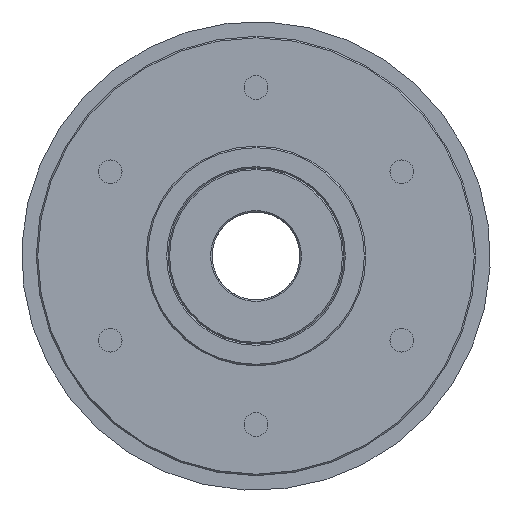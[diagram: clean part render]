
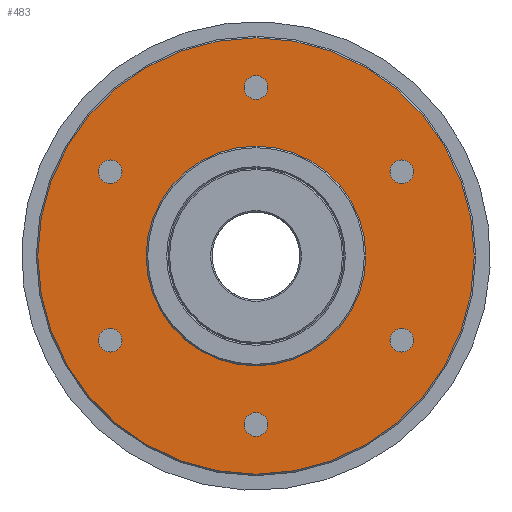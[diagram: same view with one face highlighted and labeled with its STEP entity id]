
A CAD part, left-side view. The second image highlights one B-rep face of the part: STEP entity #483.
In plain terms, the highlighted planar face has unit normal (-1, 0, 0).
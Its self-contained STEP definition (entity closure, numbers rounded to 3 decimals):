
#483 = ADVANCED_FACE( '', ( #961, #962, #963, #964, #965, #966, #967, #968 ), #969, .T. );
#961 = FACE_BOUND( '', #1565, .T. );
#962 = FACE_BOUND( '', #1566, .T. );
#963 = FACE_BOUND( '', #1567, .T. );
#964 = FACE_BOUND( '', #1568, .T. );
#965 = FACE_BOUND( '', #1569, .T. );
#966 = FACE_BOUND( '', #1570, .T. );
#967 = FACE_OUTER_BOUND( '', #1571, .T. );
#968 = FACE_BOUND( '', #1572, .T. );
#969 = PLANE( '', #1573 );
#1565 = EDGE_LOOP( '', ( #2258 ) );
#1566 = EDGE_LOOP( '', ( #2259 ) );
#1567 = EDGE_LOOP( '', ( #2260 ) );
#1568 = EDGE_LOOP( '', ( #2261 ) );
#1569 = EDGE_LOOP( '', ( #2262 ) );
#1570 = EDGE_LOOP( '', ( #2263 ) );
#1571 = EDGE_LOOP( '', ( #2264 ) );
#1572 = EDGE_LOOP( '', ( #2265 ) );
#1573 = AXIS2_PLACEMENT_3D( '', #2266, #2267, #2268 );
#2258 = ORIENTED_EDGE( '', *, *, #3077, .T. );
#2259 = ORIENTED_EDGE( '', *, *, #3078, .T. );
#2260 = ORIENTED_EDGE( '', *, *, #2928, .T. );
#2261 = ORIENTED_EDGE( '', *, *, #3079, .T. );
#2262 = ORIENTED_EDGE( '', *, *, #3037, .T. );
#2263 = ORIENTED_EDGE( '', *, *, #3080, .T. );
#2264 = ORIENTED_EDGE( '', *, *, #3081, .T. );
#2265 = ORIENTED_EDGE( '', *, *, #3082, .F. );
#2266 = CARTESIAN_POINT( '', ( 6.3, 0., 15. ) );
#2267 = DIRECTION( '', ( -1., 0., 0. ) );
#2268 = DIRECTION( '', ( 0., 0., 1. ) );
#2928 = EDGE_CURVE( '', #3277, #3277, #3278, .T. );
#3037 = EDGE_CURVE( '', #3460, #3460, #3461, .T. );
#3077 = EDGE_CURVE( '', #3523, #3523, #3524, .T. );
#3078 = EDGE_CURVE( '', #3525, #3525, #3526, .T. );
#3079 = EDGE_CURVE( '', #3527, #3527, #3528, .T. );
#3080 = EDGE_CURVE( '', #3529, #3529, #3530, .T. );
#3081 = EDGE_CURVE( '', #3531, #3531, #3532, .T. );
#3082 = EDGE_CURVE( '', #3533, #3533, #3534, .T. );
#3277 = VERTEX_POINT( '', #3891 );
#3278 = CIRCLE( '', #3892, 1.621 );
#3460 = VERTEX_POINT( '', #4124 );
#3461 = CIRCLE( '', #4125, 1.621 );
#3523 = VERTEX_POINT( '', #4352 );
#3524 = CIRCLE( '', #4353, 1.621 );
#3525 = VERTEX_POINT( '', #4354 );
#3526 = CIRCLE( '', #4355, 1.621 );
#3527 = VERTEX_POINT( '', #4356 );
#3528 = CIRCLE( '', #4357, 1.621 );
#3529 = VERTEX_POINT( '', #4358 );
#3530 = CIRCLE( '', #4359, 1.621 );
#3531 = VERTEX_POINT( '', #4360 );
#3532 = CIRCLE( '', #4361, 29.8 );
#3533 = VERTEX_POINT( '', #4362 );
#3534 = CIRCLE( '', #4363, 15. );
#3891 = CARTESIAN_POINT( '', ( 6.3, 0., -24.621 ) );
#3892 = AXIS2_PLACEMENT_3D( '', #4723, #4724, #4725 );
#4124 = CARTESIAN_POINT( '', ( 6.3, -21.322, 12.311 ) );
#4125 = AXIS2_PLACEMENT_3D( '', #4911, #4912, #4913 );
#4352 = CARTESIAN_POINT( '', ( 6.3, 21.322, 12.311 ) );
#4353 = AXIS2_PLACEMENT_3D( '', #4968, #4969, #4970 );
#4354 = CARTESIAN_POINT( '', ( 6.3, 21.322, -12.311 ) );
#4355 = AXIS2_PLACEMENT_3D( '', #4971, #4972, #4973 );
#4356 = CARTESIAN_POINT( '', ( 6.3, -21.322, -12.311 ) );
#4357 = AXIS2_PLACEMENT_3D( '', #4974, #4975, #4976 );
#4358 = CARTESIAN_POINT( '', ( 6.3, 0., 24.621 ) );
#4359 = AXIS2_PLACEMENT_3D( '', #4977, #4978, #4979 );
#4360 = CARTESIAN_POINT( '', ( 6.3, 0., 29.8 ) );
#4361 = AXIS2_PLACEMENT_3D( '', #4980, #4981, #4982 );
#4362 = CARTESIAN_POINT( '', ( 6.3, 0., 15. ) );
#4363 = AXIS2_PLACEMENT_3D( '', #4983, #4984, #4985 );
#4723 = CARTESIAN_POINT( '', ( 6.3, 0., -23. ) );
#4724 = DIRECTION( '', ( 1., 0., 0. ) );
#4725 = DIRECTION( '', ( 0., 0., -1. ) );
#4911 = CARTESIAN_POINT( '', ( 6.3, -19.919, 11.5 ) );
#4912 = DIRECTION( '', ( 1., 0., 0. ) );
#4913 = DIRECTION( '', ( 0., -0.866, 0.5 ) );
#4968 = CARTESIAN_POINT( '', ( 6.3, 19.919, 11.5 ) );
#4969 = DIRECTION( '', ( 1., 0., 0. ) );
#4970 = DIRECTION( '', ( 0., 0.866, 0.5 ) );
#4971 = CARTESIAN_POINT( '', ( 6.3, 19.919, -11.5 ) );
#4972 = DIRECTION( '', ( 1., 0., 0. ) );
#4973 = DIRECTION( '', ( 0., 0.866, -0.5 ) );
#4974 = CARTESIAN_POINT( '', ( 6.3, -19.919, -11.5 ) );
#4975 = DIRECTION( '', ( 1., 0., 0. ) );
#4976 = DIRECTION( '', ( 0., -0.866, -0.5 ) );
#4977 = CARTESIAN_POINT( '', ( 6.3, 0., 23. ) );
#4978 = DIRECTION( '', ( 1., 0., 0. ) );
#4979 = DIRECTION( '', ( 0., 0., 1. ) );
#4980 = CARTESIAN_POINT( '', ( 6.3, 0., 0. ) );
#4981 = DIRECTION( '', ( -1., 0., 0. ) );
#4982 = DIRECTION( '', ( 0., 0., 1. ) );
#4983 = CARTESIAN_POINT( '', ( 6.3, 0., 0. ) );
#4984 = DIRECTION( '', ( -1., 0., 0. ) );
#4985 = DIRECTION( '', ( 0., 0., 1. ) );
